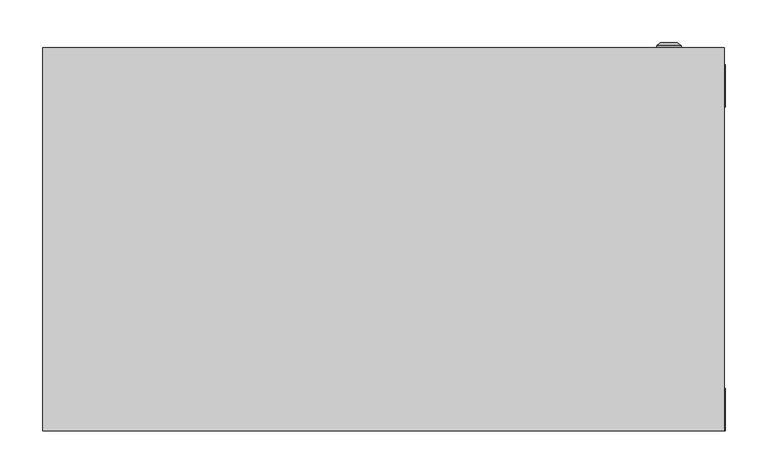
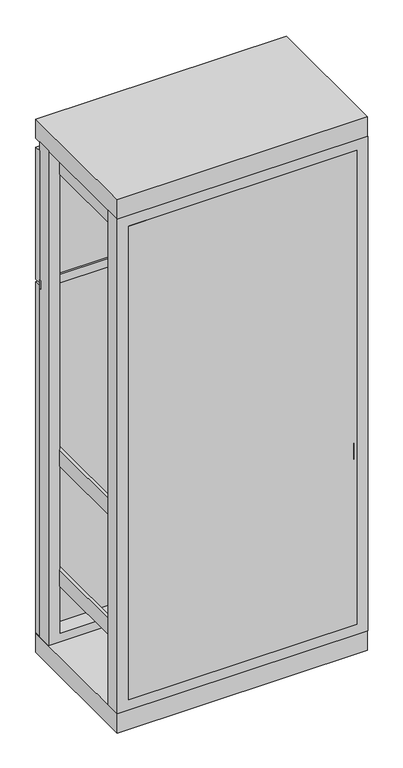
"""IFC4 building model written with IfcOpenShell, lengths in millimetres: proxy geometry, ВРУ-2 : ВРУ-2_1800х800х450."""

from ifc_helpers import new_model, si_unit, frame, origin, origin_with_axes, place, context, project, spatial, polyline, circle_curve, outline, extrude, source, transform, mapped, element, save
from ifc_brep_helpers import plane_surface, cylinder_surface, revolved_surface, advanced_brep


def electrical_equipment_51e5f88a(model_context):
    return source(origin(), model_context, "Body", "SolidModel", [
        extrude(outline(polyline([(400.0, 425.0), (-400.0, 425.0), (-400.0, 430.0), (400.0, 430.0), (400.0, 425.0)])), frame((0.0, 0.0, 1240.0), z_axis=(0.0, 0.0, 1.0), x_axis=(1.0, 0.0, 0.0)), (0.0, 0.0, 1.0), 30.0),
        advanced_brep(
        [(320.669873, 450.0, 1480.0), (349.330127, 450.0, 1480.0), (335.0, 450.0, 1480.0), (320.669873, 452.366592, 1480.0), (349.330127, 452.366592, 1480.0), (325.0, 456.0, 1480.0), (345.0, 456.0, 1480.0), (333.1080471, 456.0, 1480.0), (336.8919529, 456.0, 1480.0), (333.1080471, 454.9822294, 1480.0), (336.8919529, 454.9822294, 1480.0), (335.0, 454.9822294, 1480.0)],
        [
            (0, 1, circle_curve(frame((335.0, 450.0, 1480.0), z_axis=(0.0, -1.0, 0.0), x_axis=(1.0, 0.0, 0.0)), 14.330127)),
            (1, 2),
            (2, 0),
            (1, 0, circle_curve(frame((335.0, 450.0, 1480.0), z_axis=(0.0, -1.0, 0.0), x_axis=(1.0, 0.0, 0.0)), 14.330127)),
            (3, 4, circle_curve(frame((335.0, 452.366592, 1480.0), z_axis=(0.0, -1.0, 0.0), x_axis=(1.0, 0.0, 0.0)), 14.330127)),
            (4, 1),
            (0, 3),
            (4, 3, circle_curve(frame((335.0, 452.366592, 1480.0), z_axis=(0.0, -1.0, 0.0), x_axis=(1.0, 0.0, 0.0)), 14.330127)),
            (5, 6, circle_curve(frame((335.0, 456.0, 1480.0), z_axis=(0.0, -1.0, 0.0), x_axis=(1.0, 0.0, 0.0)), 10.0)),
            (6, 4),
            (3, 5),
            (6, 5, circle_curve(frame((335.0, 456.0, 1480.0), z_axis=(0.0, -1.0, 0.0), x_axis=(1.0, 0.0, 0.0)), 10.0)),
            (7, 8, circle_curve(frame((335.0, 456.0, 1480.0), z_axis=(0.0, -1.0, 0.0), x_axis=(1.0, 0.0, 0.0)), 1.8919529)),
            (8, 6),
            (5, 7),
            (8, 7, circle_curve(frame((335.0, 456.0, 1480.0), z_axis=(0.0, -1.0, 0.0), x_axis=(1.0, 0.0, 0.0)), 1.8919529)),
            (9, 10, circle_curve(frame((335.0, 454.9822294, 1480.0), z_axis=(0.0, -1.0, 0.0), x_axis=(1.0, 0.0, 0.0)), 1.8919529)),
            (10, 8),
            (7, 9),
            (10, 9, circle_curve(frame((335.0, 454.9822294, 1480.0), z_axis=(0.0, -1.0, 0.0), x_axis=(1.0, 0.0, 0.0)), 1.8919529)),
            (11, 10),
            (9, 11),
        ],
        [
            plane_surface(frame((335.0, 450.0, 1480.0), z_axis=(0.0, -1.0, 0.0), x_axis=(1.0, 0.0, 0.0))),
            cylinder_surface(frame((335.0, 463.1348851, 1480.0), z_axis=(0.0, 1.0, 0.0), x_axis=(1.0, 0.0, 0.0)), 14.330127),
            revolved_surface(polyline([(349.330127, 452.366592, 1480.0), (345.0, 456.0, 1480.0)]), (335.0, 463.1348851, 1480.0), (0.0, 1.0, 0.0)),
            plane_surface(frame((335.0, 456.0, 1480.0), z_axis=(0.0, 1.0, 0.0), x_axis=(1.0, 0.0, 0.0))),
            revolved_surface(polyline([(336.8919529, 456.0, 1480.0), (336.8919529, 454.9822294, 1480.0)]), (335.0, 463.1348851, 1480.0), (0.0, 1.0, 0.0)),
            plane_surface(frame((335.0, 454.9822294, 1480.0), z_axis=(0.0, 1.0, 0.0), x_axis=(1.0, 0.0, 0.0))),
        ],
        [
            (0, [[1, 2, 3]]),
            (0, [[4, -3, -2]]),
            (1, [[5, 6, -1, 7]]),
            (1, [[8, -7, -4, -6]]),
            (2, [[9, 10, -5, 11]]),
            (2, [[12, -11, -8, -10]]),
            (3, [[13, 14, -9, 15]]),
            (3, [[16, -15, -12, -14]]),
            (4, [[17, 18, -13, 19]]),
            (4, [[20, -19, -16, -18]]),
            (5, [[21, -17, 22]]),
            (5, [[-22, -20, -21]]),
        ],
    ),
        extrude(outline(polyline([(400.0, 430.0), (-400.0, 430.0), (-400.0, 450.0), (400.0, 450.0), (400.0, 430.0)])), frame((0.0, 0.0, 1260.0), z_axis=(0.0, 0.0, 1.0), x_axis=(1.0, 0.0, 0.0)), (0.0, 0.0, 1.0), 445.0),
        extrude(outline(polyline([(365.8707865, 0.0), (-363.3426966, 0.0), (-363.3426966, 10.0), (365.8707865, 10.0), (365.8707865, 0.0)])), frame((0.0, 0.0, 99.1378449), z_axis=(0.0, 0.0, 1.0), x_axis=(1.0, 0.0, 0.0)), (0.0, 0.0, 1.0), 1599.6160511),
        extrude(outline(polyline([(-355.8707865, 125.9831461), (-315.8707865, 125.9831461), (-315.8707865, 93.1179775), (-318.8707865, 93.1179775), (-318.8707865, 122.9831461), (-352.8707865, 122.9831461), (-352.8707865, 93.1179775), (-355.8707865, 93.1179775), (-355.8707865, 125.9831461)])), frame((0.0, 0.0, 189.6067416), z_axis=(0.0, 0.0, 1.0), x_axis=(1.0, 0.0, 0.0)), (0.0, 0.0, 1.0), 1545.3932584),
        extrude(outline(polyline([(315.8707865, 125.9831461), (355.8707865, 125.9831461), (355.8707865, 93.1179775), (352.8707865, 93.1179775), (352.8707865, 122.9831461), (318.8707865, 122.9831461), (318.8707865, 93.1179775), (315.8707865, 93.1179775), (315.8707865, 125.9831461)])), frame((0.0, 0.0, 189.6067416), z_axis=(0.0, 0.0, 1.0), x_axis=(1.0, 0.0, 0.0)), (0.0, 0.0, 1.0), 1545.3932584),
        extrude(outline(polyline([(-355.8707865, 10.0), (-365.8707865, 10.0), (-365.8707865, 430.0), (-355.8707865, 430.0), (-355.8707865, 10.0)])), frame((0.0, 0.0, 1645.5966059), z_axis=(0.0, 0.0, 1.0), x_axis=(1.0, 0.0, 0.0)), (0.0, 0.0, 1.0), 53.0898876),
        extrude(outline(polyline([(365.8707865, 10.0), (355.8707865, 10.0), (355.8707865, 430.0), (365.8707865, 430.0), (365.8707865, 10.0)])), frame((0.0, 0.0, 1645.5966059), z_axis=(0.0, 0.0, 1.0), x_axis=(1.0, 0.0, 0.0)), (0.0, 0.0, 1.0), 53.0898876),
        extrude(outline(polyline([(-355.8707865, 10.0), (-365.8707865, 10.0), (-365.8707865, 430.0), (-355.8707865, 430.0), (-355.8707865, 10.0)])), frame((0.0, 0.0, 255.5966059), z_axis=(0.0, 0.0, 1.0), x_axis=(1.0, 0.0, 0.0)), (0.0, 0.0, 1.0), 53.0898876),
        extrude(outline(polyline([(365.8707865, 10.0), (355.8707865, 10.0), (355.8707865, 430.0), (365.8707865, 430.0), (365.8707865, 10.0)])), frame((0.0, 0.0, 255.5966059), z_axis=(0.0, 0.0, 1.0), x_axis=(1.0, 0.0, 0.0)), (0.0, 0.0, 1.0), 53.0898876),
        extrude(outline(polyline([(-355.8707865, 10.0), (-365.8707865, 10.0), (-365.8707865, 430.0), (-355.8707865, 430.0), (-355.8707865, 10.0)])), frame((0.0, 0.0, 660.5966059), z_axis=(0.0, 0.0, 1.0), x_axis=(1.0, 0.0, 0.0)), (0.0, 0.0, 1.0), 53.0898876),
        extrude(outline(polyline([(365.8707865, 0.0), (355.8707865, 0.0), (355.8707865, 430.0), (365.8707865, 430.0), (365.8707865, 0.0)])), frame((0.0, 0.0, 660.5966059), z_axis=(0.0, 0.0, 1.0), x_axis=(1.0, 0.0, 0.0)), (0.0, 0.0, 1.0), 53.0898876),
        extrude(outline(polyline([(1734.1471543, -400.0), (65.0187804, -400.0), (65.0187804, 401.2640449), (1734.1471543, 401.2640449), (1734.1471543, -400.0)]), holes=[polyline([(99.1378449, 365.8707865), (99.1378449, -363.3426966), (1698.7538959, -363.3426966), (1698.7538959, 365.8707865), (99.1378449, 365.8707865)])]), frame((0.0, 0.0, 0.0), z_axis=(0.0, 1.0, 0.0), x_axis=(0.0, 0.0, 1.0)), (0.0, 0.0, 1.0), 50.0),
        extrude(outline(polyline([(1735.0, -400.0), (65.0187804, -400.0), (65.0187804, 401.2640449), (1735.0, 401.2640449), (1735.0, -400.0)]), holes=[polyline([(93.3701084, 365.8707865), (93.3701084, -363.3426966), (1692.9861595, -363.3426966), (1692.9861595, 365.8707865), (93.3701084, 365.8707865)])]), frame((0.0, 380.0, 0.0), z_axis=(0.0, 1.0, 0.0), x_axis=(0.0, 0.0, 1.0)), (0.0, 0.0, 1.0), 50.0),
        extrude(outline(polyline([(400.0067809, 450.0), (400.0067809, 0.0), (-400.0, 0.0), (-400.0, 450.0), (400.0067809, 450.0)])), frame((0.0, 0.0, 1735.0), z_axis=(0.0, 0.0, 1.0), x_axis=(1.0, 0.0, 0.0)), (0.0, 0.0, 1.0), 65.0),
        advanced_brep(
        [(320.669873, 450.0, 375.0), (349.330127, 450.0, 375.0), (335.0, 450.0, 375.0), (320.669873, 452.366592, 375.0), (349.330127, 452.366592, 375.0), (325.0, 456.0, 375.0), (345.0, 456.0, 375.0), (333.1080471, 456.0, 375.0), (336.8919529, 456.0, 375.0), (333.1080471, 454.9822294, 375.0), (336.8919529, 454.9822294, 375.0), (335.0, 454.9822294, 375.0)],
        [
            (0, 1, circle_curve(frame((335.0, 450.0, 375.0), z_axis=(0.0, -1.0, 0.0), x_axis=(1.0, 0.0, 0.0)), 14.330127)),
            (1, 2),
            (2, 0),
            (1, 0, circle_curve(frame((335.0, 450.0, 375.0), z_axis=(0.0, -1.0, 0.0), x_axis=(1.0, 0.0, 0.0)), 14.330127)),
            (3, 4, circle_curve(frame((335.0, 452.366592, 375.0), z_axis=(0.0, -1.0, 0.0), x_axis=(1.0, 0.0, 0.0)), 14.330127)),
            (4, 1),
            (0, 3),
            (4, 3, circle_curve(frame((335.0, 452.366592, 375.0), z_axis=(0.0, -1.0, 0.0), x_axis=(1.0, 0.0, 0.0)), 14.330127)),
            (5, 6, circle_curve(frame((335.0, 456.0, 375.0), z_axis=(0.0, -1.0, 0.0), x_axis=(1.0, 0.0, 0.0)), 10.0)),
            (6, 4),
            (3, 5),
            (6, 5, circle_curve(frame((335.0, 456.0, 375.0), z_axis=(0.0, -1.0, 0.0), x_axis=(1.0, 0.0, 0.0)), 10.0)),
            (7, 8, circle_curve(frame((335.0, 456.0, 375.0), z_axis=(0.0, -1.0, 0.0), x_axis=(1.0, 0.0, 0.0)), 1.8919529)),
            (8, 6),
            (5, 7),
            (8, 7, circle_curve(frame((335.0, 456.0, 375.0), z_axis=(0.0, -1.0, 0.0), x_axis=(1.0, 0.0, 0.0)), 1.8919529)),
            (9, 10, circle_curve(frame((335.0, 454.9822294, 375.0), z_axis=(0.0, -1.0, 0.0), x_axis=(1.0, 0.0, 0.0)), 1.8919529)),
            (10, 8),
            (7, 9),
            (10, 9, circle_curve(frame((335.0, 454.9822294, 375.0), z_axis=(0.0, -1.0, 0.0), x_axis=(1.0, 0.0, 0.0)), 1.8919529)),
            (11, 10),
            (9, 11),
        ],
        [
            plane_surface(frame((335.0, 450.0, 375.0), z_axis=(0.0, -1.0, 0.0), x_axis=(1.0, 0.0, 0.0))),
            cylinder_surface(frame((335.0, 463.1348851, 375.0), z_axis=(0.0, 1.0, 0.0), x_axis=(1.0, 0.0, 0.0)), 14.330127),
            revolved_surface(polyline([(349.330127, 452.366592, 375.0), (345.0, 456.0, 375.0)]), (335.0, 463.1348851, 375.0), (0.0, 1.0, 0.0)),
            plane_surface(frame((335.0, 456.0, 375.0), z_axis=(0.0, 1.0, 0.0), x_axis=(1.0, 0.0, 0.0))),
            revolved_surface(polyline([(336.8919529, 456.0, 375.0), (336.8919529, 454.9822294, 375.0)]), (335.0, 463.1348851, 375.0), (0.0, 1.0, 0.0)),
            plane_surface(frame((335.0, 454.9822294, 375.0), z_axis=(0.0, 1.0, 0.0), x_axis=(1.0, 0.0, 0.0))),
        ],
        [
            (0, [[1, 2, 3]]),
            (0, [[4, -3, -2]]),
            (1, [[5, 6, -1, 7]]),
            (1, [[8, -7, -4, -6]]),
            (2, [[9, 10, -5, 11]]),
            (2, [[12, -11, -8, -10]]),
            (3, [[13, 14, -9, 15]]),
            (3, [[16, -15, -12, -14]]),
            (4, [[17, 18, -13, 19]]),
            (4, [[20, -19, -16, -18]]),
            (5, [[21, -17, 22]]),
            (5, [[-22, -20, -21]]),
        ],
    ),
        advanced_brep(
        [(320.669873, 450.0, 880.0), (349.330127, 450.0, 880.0), (335.0, 450.0, 880.0), (320.669873, 452.366592, 880.0), (349.330127, 452.366592, 880.0), (325.0, 456.0, 880.0), (345.0, 456.0, 880.0), (333.1080471, 456.0, 880.0), (336.8919529, 456.0, 880.0), (333.1080471, 454.9822294, 880.0), (336.8919529, 454.9822294, 880.0), (335.0, 454.9822294, 880.0)],
        [
            (0, 1, circle_curve(frame((335.0, 450.0, 880.0), z_axis=(0.0, -1.0, 0.0), x_axis=(1.0, 0.0, 0.0)), 14.330127)),
            (1, 2),
            (2, 0),
            (1, 0, circle_curve(frame((335.0, 450.0, 880.0), z_axis=(0.0, -1.0, 0.0), x_axis=(1.0, 0.0, 0.0)), 14.330127)),
            (3, 4, circle_curve(frame((335.0, 452.366592, 880.0), z_axis=(0.0, -1.0, 0.0), x_axis=(1.0, 0.0, 0.0)), 14.330127)),
            (4, 1),
            (0, 3),
            (4, 3, circle_curve(frame((335.0, 452.366592, 880.0), z_axis=(0.0, -1.0, 0.0), x_axis=(1.0, 0.0, 0.0)), 14.330127)),
            (5, 6, circle_curve(frame((335.0, 456.0, 880.0), z_axis=(0.0, -1.0, 0.0), x_axis=(1.0, 0.0, 0.0)), 10.0)),
            (6, 4),
            (3, 5),
            (6, 5, circle_curve(frame((335.0, 456.0, 880.0), z_axis=(0.0, -1.0, 0.0), x_axis=(1.0, 0.0, 0.0)), 10.0)),
            (7, 8, circle_curve(frame((335.0, 456.0, 880.0), z_axis=(0.0, -1.0, 0.0), x_axis=(1.0, 0.0, 0.0)), 1.8919529)),
            (8, 6),
            (5, 7),
            (8, 7, circle_curve(frame((335.0, 456.0, 880.0), z_axis=(0.0, -1.0, 0.0), x_axis=(1.0, 0.0, 0.0)), 1.8919529)),
            (9, 10, circle_curve(frame((335.0, 454.9822294, 880.0), z_axis=(0.0, -1.0, 0.0), x_axis=(1.0, 0.0, 0.0)), 1.8919529)),
            (10, 8),
            (7, 9),
            (10, 9, circle_curve(frame((335.0, 454.9822294, 880.0), z_axis=(0.0, -1.0, 0.0), x_axis=(1.0, 0.0, 0.0)), 1.8919529)),
            (11, 10),
            (9, 11),
        ],
        [
            plane_surface(frame((335.0, 450.0, 880.0), z_axis=(0.0, -1.0, 0.0), x_axis=(1.0, 0.0, 0.0))),
            cylinder_surface(frame((335.0, 463.1348851, 880.0), z_axis=(0.0, 1.0, 0.0), x_axis=(1.0, 0.0, 0.0)), 14.330127),
            revolved_surface(polyline([(349.330127, 452.366592, 880.0), (345.0, 456.0, 880.0)]), (335.0, 463.1348851, 880.0), (0.0, 1.0, 0.0)),
            plane_surface(frame((335.0, 456.0, 880.0), z_axis=(0.0, 1.0, 0.0), x_axis=(1.0, 0.0, 0.0))),
            revolved_surface(polyline([(336.8919529, 456.0, 880.0), (336.8919529, 454.9822294, 880.0)]), (335.0, 463.1348851, 880.0), (0.0, 1.0, 0.0)),
            plane_surface(frame((335.0, 454.9822294, 880.0), z_axis=(0.0, 1.0, 0.0), x_axis=(1.0, 0.0, 0.0))),
        ],
        [
            (0, [[1, 2, 3]]),
            (0, [[4, -3, -2]]),
            (1, [[5, 6, -1, 7]]),
            (1, [[8, -7, -4, -6]]),
            (2, [[9, 10, -5, 11]]),
            (2, [[12, -11, -8, -10]]),
            (3, [[13, 14, -9, 15]]),
            (3, [[16, -15, -12, -14]]),
            (4, [[17, 18, -13, 19]]),
            (4, [[20, -19, -16, -18]]),
            (5, [[21, -17, 22]]),
            (5, [[-22, -20, -21]]),
        ],
    ),
        extrude(outline(polyline([(400.0067809, 450.0), (400.0067809, 0.0), (-400.0, 0.0), (-400.0, 450.0), (400.0067809, 450.0)])), origin_with_axes(), (0.0, 0.0, 1.0), 65.0187804),
        extrude(outline(polyline([(400.0, 430.0), (-400.0, 430.0), (-400.0, 450.0), (400.0, 450.0), (400.0, 430.0)])), frame((0.0, 0.0, 65.0187804), z_axis=(0.0, 0.0, 1.0), x_axis=(1.0, 0.0, 0.0)), (0.0, 0.0, 1.0), 1184.9812196),
    ])


if __name__ == "__main__":
    model = new_model("IFC4")
    model_context = context("Model", 3, world=origin())
    ifc_project = project(units=[si_unit("LENGTHUNIT", "METRE", prefix="MILLI")], contexts=[model_context])
    site = spatial("IfcSite", under=ifc_project)
    building = spatial("IfcBuilding", under=site)
    placement = place(None, origin())
    electrical_equipment_shape = electrical_equipment_51e5f88a(model_context)
    element("IfcBuildingElementProxy", 1, Name="ВРУ-2 : ВРУ-2_1800х800х450", ObjectType="ВРУ-2 : ВРУ-2_1800х800х450", at=placement, inside=building, context=model_context, shape_type="MappedRepresentation", body=[
        mapped(electrical_equipment_shape, transform((0.0, 0.0, 0.0), x_axis=(1.0, 0.0, 0.0), y_axis=(0.0, 1.0, 0.0), z_axis=(0.0, 0.0, 1.0))),
    ])
    save(model, "model.ifc")
